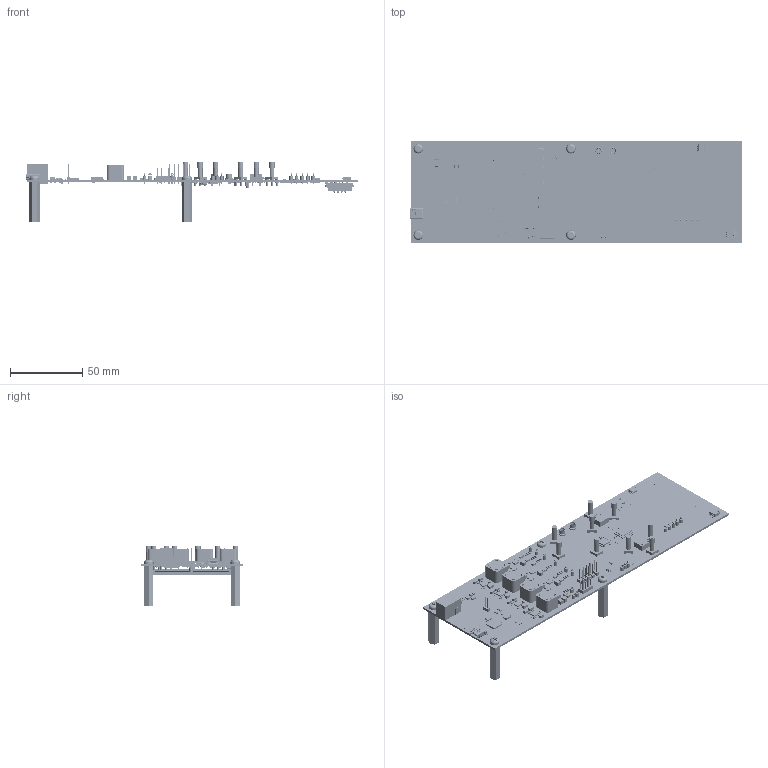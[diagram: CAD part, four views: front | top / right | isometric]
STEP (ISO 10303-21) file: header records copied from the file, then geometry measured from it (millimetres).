
FILE_DESCRIPTION(('Open CASCADE Model'),'2;1');
FILE_NAME('Open CASCADE Shape Model','2019-03-29T06:57:40',('Author'),( 'Open CASCADE'),'Open CASCADE STEP processor 6.8','Open CASCADE 6.8' ,'Unknown');
FILE_SCHEMA(('AUTOMOTIVE_DESIGN { 1 0 10303 214 1 1 1 1 }'));
Length unit declared in the file: millimetre
Products named in the file (1026): PCB; Board; R7; 6234264704; Extruded; 6234264512; R173; 6234265088; 6234264896; R154; Y1; Abracon_ABM3; U18; TSSOP-8_31x44; TSSOP-8_3.1x4.4_pin_TSSOP_tssop_1; TSSOP-8_3.1x4.4_body_TSSOP_TSSOP_3.1x4.5_1; 6234265856; U17; 6234266048; 6234262016; R170; R169; R168; R167; R165; R163; R160; R157; R156; R155; R153; R151; R150; R149; R148; R106; R88; R85; R79; R76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
Assembly tree (2690 placements, depth 6):
  PCB
    Board
    R7
      6234264704  x2
        Extruded
      6234264512
        Extruded
    R173
      6234265088  x2
        Extruded
      6234264896
        Extruded
    R154
      6234265088  x2
        Extruded
      6234264896
        Extruded
    Y1
      Abracon_ABM3
    U18
      TSSOP-8_31x44
        TSSOP-8_3.1x4.4_pin_TSSOP_tssop_1  x8
        TSSOP-8_3.1x4.4_body_TSSOP_TSSOP_3.1x4.5_1
      6234265856
        Extruded
    U17
      6234266048
        Extruded
      6234262016
        Extruded
    R170
      6234264704  x2
        Extruded
      6234264512
        Extruded
    R169
      6234265088  x2
        Extruded
      6234264896
        Extruded
    R168
      6234265088  x2
        Extruded
      6234264896
        Extruded
    R167
      6234265088  x2
        Extruded
      6234264896
        Extruded
    R165
      6234264704  x2
        Extruded
      6234264512
        Extruded
    R163
      6234265088  x2
        Extruded
      6234264896
        Extruded
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Bounding box: 229.21 x 69.85 x 41.67 mm (x, y, z)
Volume: 44930.9 mm3; surface area: 65387 mm2
Topology: 2281 solids, 2281 shells, 25356 faces, 60439 edges, 39393 vertices
Faces by surface type: plane 19442, cylinder 4446, bspline 436, torus 432, sphere 430, cone 168, revolution 2
Full cylindrical faces by diameter (mm): 0.179 x1, 0.4 x1, 0.72 x9, 0.98 x4, 1 x4, 1.27 x4, 2.3 x1, 2.5 x17, 2.845 x56, 3.2 x9, 3.251 x9, 3.76 x9, 6.604 x4, 9.9 x4
Entity records: 403527 total; most frequent: CARTESIAN_POINT 82136, DIRECTION 62238, ORIENTED_EDGE 60864, EDGE_CURVE 30432, LINE 21704, VECTOR 21704, AXIS2_PLACEMENT_3D 20266, VERTEX_POINT 19603
